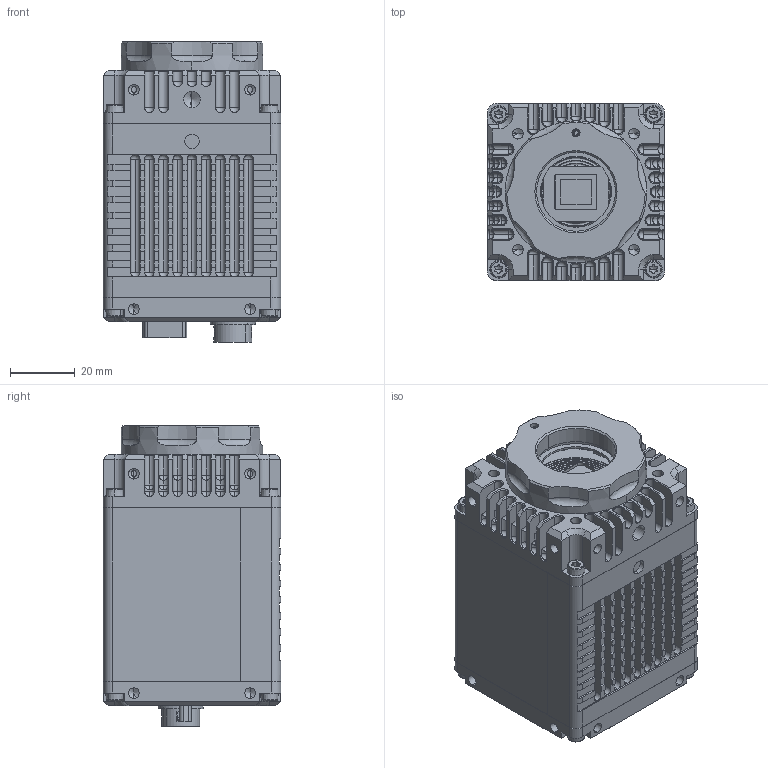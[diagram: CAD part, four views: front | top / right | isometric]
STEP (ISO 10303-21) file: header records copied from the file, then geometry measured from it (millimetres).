
FILE_DESCRIPTION (( 'STEP AP214' ), '1' );
FILE_NAME ('4168030_Goldeye CL-033 SWIR TEC1.STEP', '2025-03-14T09:32:49', ( '' ), ( '' ), 'SwSTEP 2.0', 'SolidWorks 2023', '' );
FILE_SCHEMA (( 'AUTOMOTIVE_DESIGN' ));
Length unit declared in the file: millimetre
Products named in the file (1): 4168030_Goldeye CL-033 SWIR TEC1
Bounding box: 55.01 x 55 x 93.17 mm (x, y, z)
Surface area: 75724.3 mm2 (no closed solid volume)
Topology: 0 solids, 39 shells, 2805 faces, 7534 edges, 4750 vertices
Faces by surface type: plane 1271, cylinder 816, bspline 297, cone 263, sphere 98, torus 60
Entity records: 126110 total; most frequent: CARTESIAN_POINT 27061, ORIENTED_EDGE 14356, DIRECTION 13341, EDGE_CURVE 7328, VERTEX_POINT 4736, LINE 4557, VECTOR 4557, AXIS2_PLACEMENT_3D 4392
